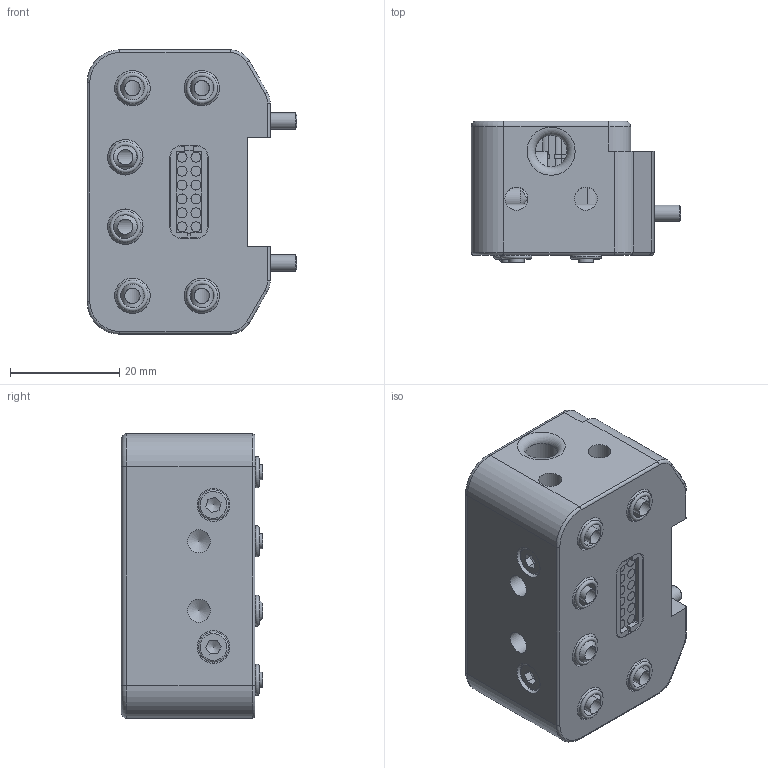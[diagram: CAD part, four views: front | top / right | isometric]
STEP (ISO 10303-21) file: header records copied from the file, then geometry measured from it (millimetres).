
FILE_DESCRIPTION(/* description */ (''),/* implementation_level */ '2;1');
FILE_NAME(/* name */ 'T:\CAD\Standard\SHW\SEK-P\SEK100\SEK100-6PM5-1FE12\G-SEK100-O-6PM5-1FE12.stp',/* time_stamp */ '2022-02-15T14:38:03+01:00',/* author */ ('vbednarz'),/* organization */ (''),/* preprocessor_version */ 'ST-DEVELOPER v17',/* originating_system */ 'Autodesk Inventor 2018',/* authorisation */ '');
FILE_SCHEMA (('AUTOMOTIVE_DESIGN { 1 0 10303 214 3 1 1 }'));
Length unit declared in the file: millimetre
Products named in the file (1): G-SEK100-O-6PM5-1FE12-300-M8.step
Bounding box: 38.4 x 25.85 x 52 mm (x, y, z)
Volume: 33984.3 mm3; surface area: 14907.5 mm2
Topology: 3 solids, 17 shells, 462 faces, 1245 edges, 840 vertices
Faces by surface type: plane 214, cylinder 155, cone 48, torus 31, bspline 14
Full cylindrical faces by diameter (mm): 1 x5, 1.35 x12, 1.8 x2, 1.83 x12, 2.02 x2, 2.05 x4, 2.5 x4, 2.8 x6, 2.9 x4, 3 x2, 3.4 x2, 4.2 x6, 4.5 x4, 5 x4, 5.5 x2, 5.8 x1, 6 x2, 6.5 x12
Entity records: 16261 total; most frequent: CARTESIAN_POINT 3776, DIRECTION 2580, ORIENTED_EDGE 2454, EDGE_CURVE 1227, AXIS2_PLACEMENT_3D 983, VERTEX_POINT 840, LINE 614, VECTOR 614
